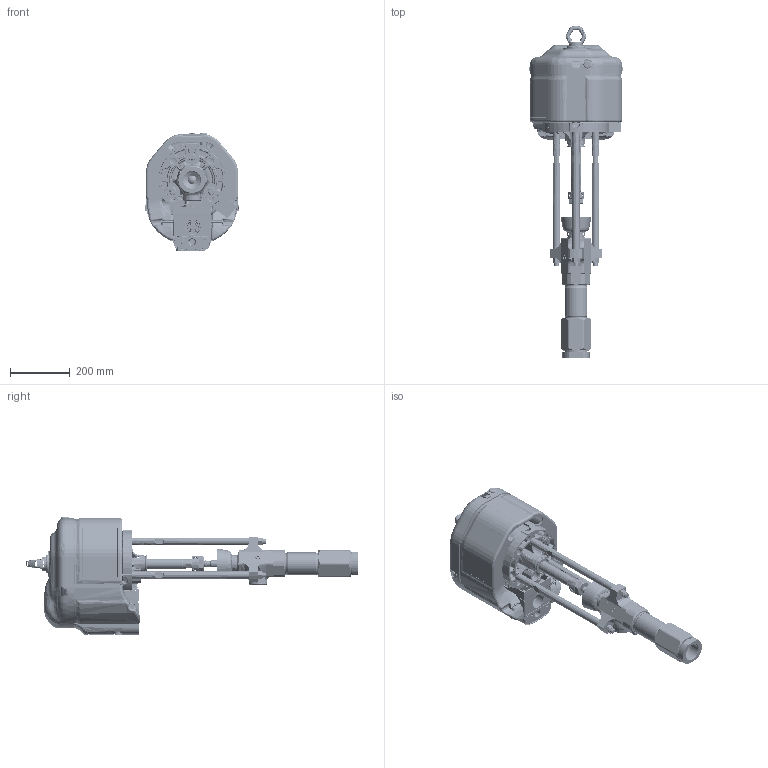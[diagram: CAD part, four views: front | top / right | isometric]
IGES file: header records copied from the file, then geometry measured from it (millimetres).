
Start section:  PTC IGES file: p21css-en-a.igs
Global section: file name: p21css-en-a.igs; native system: Creo Parametric by PTC Inc.; preprocessor: 2019030; author: qusrh3; organization: Unknown; date: 20200528.135329; units: inch
Bounding box: 314.71 x 1109.79 x 395.13 mm (x, y, z)
Surface area: 2893408.8 mm2 (no closed solid volume)
Topology: 0 solids, 0 shells, 5505 faces, 32546 edges, 32530 vertices
Faces by surface type: revolution 2925, bspline 2567, extrusion 13
